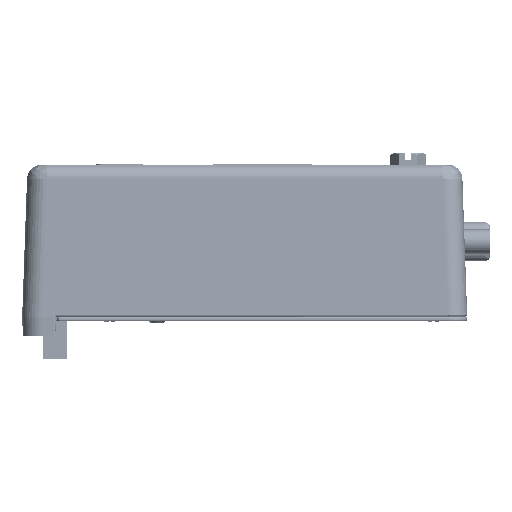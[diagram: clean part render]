
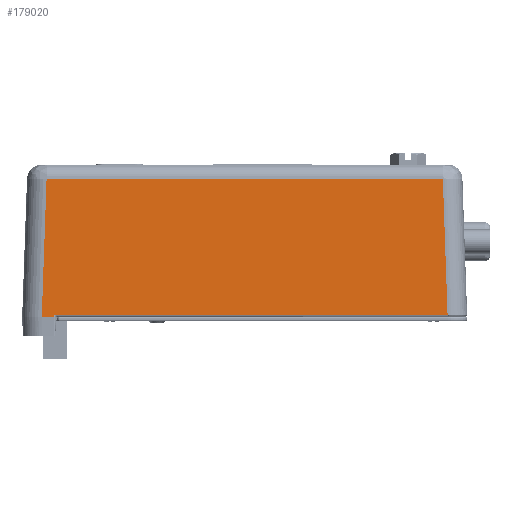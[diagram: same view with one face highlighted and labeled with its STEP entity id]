
A CAD part, left-side view. The second image highlights one B-rep face of the part: STEP entity #179020.
In plain terms, the highlighted planar face has unit normal (-0.999, 0, 0.035).
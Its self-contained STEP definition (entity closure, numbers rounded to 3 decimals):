
#14722=ORIENTED_EDGE('',*,*,#55661,.T.);
#14723=ORIENTED_EDGE('',*,*,#55662,.T.);
#14724=ORIENTED_EDGE('',*,*,#55663,.T.);
#14725=ORIENTED_EDGE('',*,*,#55664,.T.);
#14726=ORIENTED_EDGE('',*,*,#55665,.T.);
#14727=ORIENTED_EDGE('',*,*,#55666,.T.);
#55661=EDGE_CURVE('',#76119,#76120,#88720,.T.);
#55662=EDGE_CURVE('',#76120,#76121,#88721,.F.);
#55663=EDGE_CURVE('',#76121,#76122,#88722,.F.);
#55664=EDGE_CURVE('',#76122,#76123,#88723,.T.);
#55665=EDGE_CURVE('',#76123,#76124,#88724,.T.);
#55666=EDGE_CURVE('',#76124,#76119,#88725,.T.);
#76119=VERTEX_POINT('',#246672);
#76120=VERTEX_POINT('',#246673);
#76121=VERTEX_POINT('',#246675);
#76122=VERTEX_POINT('',#246677);
#76123=VERTEX_POINT('',#246679);
#76124=VERTEX_POINT('',#246681);
#88720=LINE('',#246671,#102511);
#88721=LINE('',#246674,#102512);
#88722=LINE('',#246676,#102513);
#88723=LINE('',#246678,#102514);
#88724=LINE('',#246680,#102515);
#88725=LINE('',#246682,#102516);
#102511=VECTOR('',#203549,1000.);
#102512=VECTOR('',#203550,1000.);
#102513=VECTOR('',#203551,1000.);
#102514=VECTOR('',#203552,1000.);
#102515=VECTOR('',#203553,1000.);
#102516=VECTOR('',#203554,1000.);
#115768=EDGE_LOOP('',(#14722,#14723,#14724,#14725,#14726,#14727));
#124341=FACE_BOUND('',#115768,.T.);
#132896=PLANE('',#188297);
#179020=ADVANCED_FACE('',(#124341),#132896,.T.);
#188297=AXIS2_PLACEMENT_3D('',#246670,#203547,#203548);
#203547=DIRECTION('',(-0.999,0.,0.035));
#203548=DIRECTION('',(0.035,0.,0.999));
#203549=DIRECTION('',(0.035,0.035,0.999));
#203550=DIRECTION('',(0.,-1.,0.));
#203551=DIRECTION('',(0.035,-0.035,0.999));
#203552=DIRECTION('',(0.,-1.,0.));
#203553=DIRECTION('',(0.035,-0.035,0.999));
#203554=DIRECTION('',(0.,-1.,0.));
#246670=CARTESIAN_POINT('',(-58.405,0.,-31.));
#246671=CARTESIAN_POINT('',(-58.355,-41.337,-29.558));
#246672=CARTESIAN_POINT('',(-58.391,-41.374,-30.606));
#246673=CARTESIAN_POINT('',(-57.425,-40.408,-2.942));
#246674=CARTESIAN_POINT('',(-57.425,0.,-2.942));
#246675=CARTESIAN_POINT('',(-57.425,40.408,-2.942));
#246676=CARTESIAN_POINT('',(-58.355,41.337,-29.558));
#246677=CARTESIAN_POINT('',(-58.405,41.387,-30.987));
#246678=CARTESIAN_POINT('',(-58.405,0.,-30.987));
#246679=CARTESIAN_POINT('',(-58.405,38.866,-30.987));
#246680=CARTESIAN_POINT('',(-58.358,38.819,-29.646));
#246681=CARTESIAN_POINT('',(-58.391,38.853,-30.606));
#246682=CARTESIAN_POINT('',(-58.391,-41.387,-30.606));
